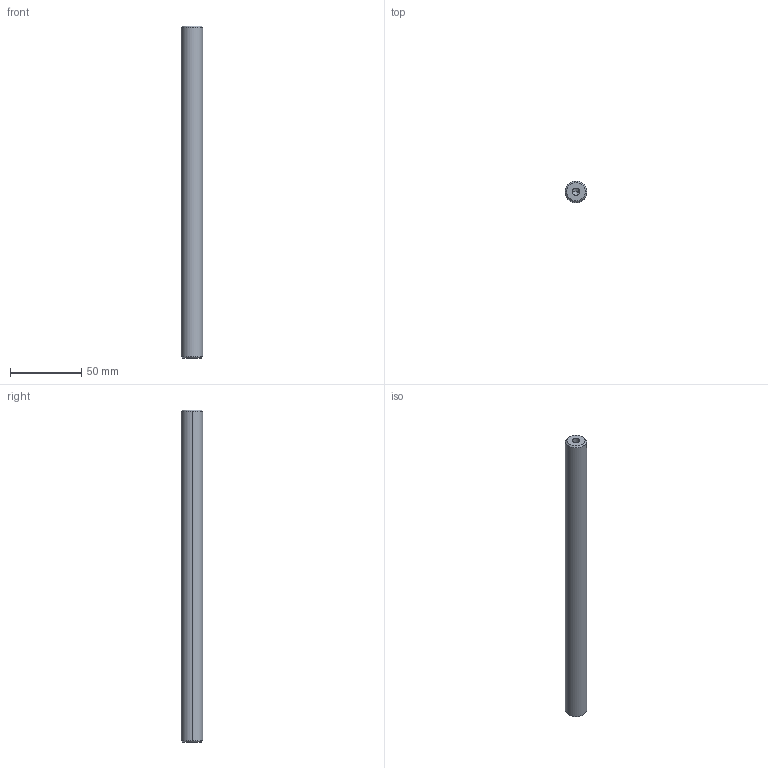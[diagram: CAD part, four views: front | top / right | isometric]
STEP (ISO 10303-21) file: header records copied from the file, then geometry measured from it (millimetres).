
FILE_DESCRIPTION (( 'STEP AP203' ), '1' );
FILE_NAME ('084.801.058.STEP', '2015-02-11T08:17:49', ( '' ), ( '' ), 'SwSTEP 2.0', 'SolidWorks 2012', '' );
FILE_SCHEMA (( 'CONFIG_CONTROL_DESIGN' ));
Length unit declared in the file: millimetre
Products named in the file (1): 084.801.058
Bounding box: 15 x 15 x 233 mm (x, y, z)
Volume: 40442.2 mm3; surface area: 11816.1 mm2
Topology: 1 solids, 1 shells, 16 faces, 34 edges, 18 vertices
Faces by surface type: cone 8, cylinder 6, plane 2
Entity records: 479 total; most frequent: DIRECTION 80, CARTESIAN_POINT 65, ORIENTED_EDGE 60, AXIS2_PLACEMENT_3D 33, EDGE_CURVE 30, VERTEX_POINT 18, EDGE_LOOP 18, CIRCLE 16
